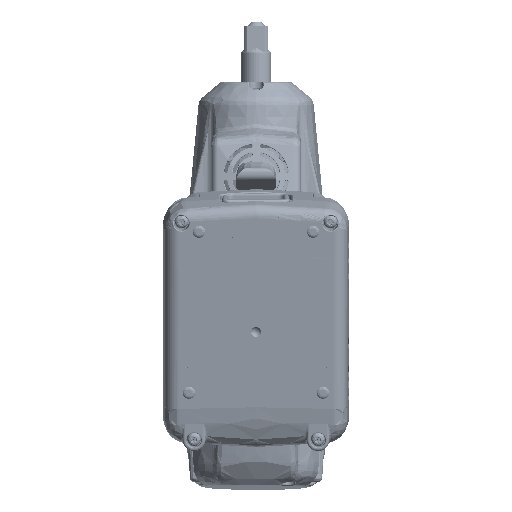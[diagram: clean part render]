
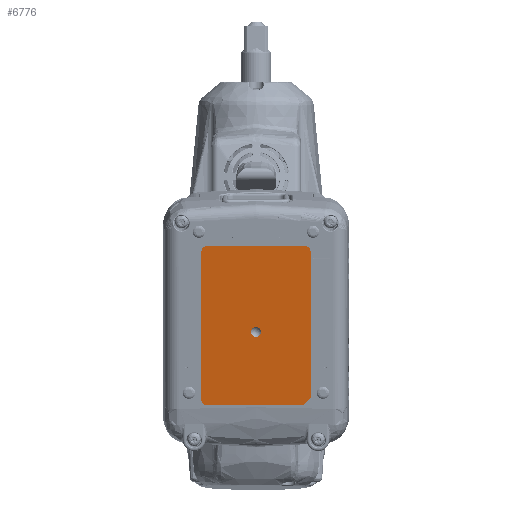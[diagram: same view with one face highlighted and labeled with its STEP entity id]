
A CAD part, front view. The second image highlights one B-rep face of the part: STEP entity #6776.
In plain terms, the highlighted planar face has unit normal (0, -0.985, -0.174) as drawn and (0, 0, -1) by its records, which use the part's own axes.
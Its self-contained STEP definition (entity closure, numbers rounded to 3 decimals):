
#1949 = LINE ( 'NONE', #177792, #349503 ) ;
#6776 = ADVANCED_FACE ( 'NONE', ( #311304, #411543 ), #16496, .T. ) ;
#13667 = ORIENTED_EDGE ( 'NONE', *, *, #18478, .T. ) ;
#16412 = AXIS2_PLACEMENT_3D ( 'NONE', #289999, #323971, #143046 ) ;
#16496 = PLANE ( 'NONE',  #16412 ) ;
#16927 = DIRECTION ( 'NONE',  ( 0., 0., -1. ) ) ;
#18478 = EDGE_CURVE ( 'NONE', #400707, #19149, #143540, .T. ) ;
#18681 = DIRECTION ( 'NONE',  ( -1., 0., 0. ) ) ;
#19149 = VERTEX_POINT ( 'NONE', #359118 ) ;
#25332 = CARTESIAN_POINT ( 'NONE',  ( 19.665, -67.22, -14.1 ) ) ;
#27211 = CIRCLE ( 'NONE', #139844, 2. ) ;
#27775 = VECTOR ( 'NONE', #369295, 1000. ) ;
#41814 = EDGE_CURVE ( 'NONE', #174926, #162309, #417623, .T. ) ;
#42517 = CARTESIAN_POINT ( 'NONE',  ( 4.665, -4.22, -14.1 ) ) ;
#43686 = CARTESIAN_POINT ( 'NONE',  ( 18.665, -4.22, -14.1 ) ) ;
#46924 = CIRCLE ( 'NONE', #75134, 2. ) ;
#58130 = VERTEX_POINT ( 'NONE', #251956 ) ;
#74441 = VECTOR ( 'NONE', #196504, 1000. ) ;
#75134 = AXIS2_PLACEMENT_3D ( 'NONE', #393713, #325963, #359880 ) ;
#77725 = DIRECTION ( 'NONE',  ( 0., -1., 0. ) ) ;
#81938 = EDGE_CURVE ( 'NONE', #415935, #105528, #140913, .T. ) ;
#85822 = EDGE_CURVE ( 'NONE', #105528, #400707, #212573, .T. ) ;
#89278 = CARTESIAN_POINT ( 'NONE',  ( -0.335, -34.12, -14.1 ) ) ;
#102603 = EDGE_CURVE ( 'NONE', #186102, #234474, #27211, .T. ) ;
#105528 = VERTEX_POINT ( 'NONE', #152702 ) ;
#116356 = EDGE_CURVE ( 'NONE', #162309, #174926, #404355, .T. ) ;
#123116 = EDGE_CURVE ( 'NONE', #19149, #186102, #1949, .T. ) ;
#123146 = VECTOR ( 'NONE', #381011, 1000. ) ;
#127495 = CARTESIAN_POINT ( 'NONE',  ( -22.335, -4.22, -14.1 ) ) ;
#139844 = AXIS2_PLACEMENT_3D ( 'NONE', #25332, #324074, #259155 ) ;
#140913 = CIRCLE ( 'NONE', #400001, 2. ) ;
#142945 = LINE ( 'NONE', #127495, #74441 ) ;
#143046 = DIRECTION ( 'NONE',  ( -1., 0., 0. ) ) ;
#143528 = ORIENTED_EDGE ( 'NONE', *, *, #116356, .T. ) ;
#143540 = LINE ( 'NONE', #167020, #338129 ) ;
#151311 = CARTESIAN_POINT ( 'NONE',  ( 1.665, -34.12, -14.1 ) ) ;
#152702 = CARTESIAN_POINT ( 'NONE',  ( -20.335, -4.22, -14.1 ) ) ;
#154646 = EDGE_LOOP ( 'NONE', ( #180034, #160179, #207659, #410442, #158974, #13667, #205016, #276590 ) ) ;
#157892 = CARTESIAN_POINT ( 'NONE',  ( 21.665, -67.22, -14.1 ) ) ;
#158974 = ORIENTED_EDGE ( 'NONE', *, *, #85822, .T. ) ;
#160179 = ORIENTED_EDGE ( 'NONE', *, *, #259780, .T. ) ;
#162309 = VERTEX_POINT ( 'NONE', #222397 ) ;
#167020 = CARTESIAN_POINT ( 'NONE',  ( 18.665, -4.22, -14.1 ) ) ;
#174926 = VERTEX_POINT ( 'NONE', #151311 ) ;
#177678 = EDGE_LOOP ( 'NONE', ( #143528, #374752 ) ) ;
#177792 = CARTESIAN_POINT ( 'NONE',  ( 21.665, -4.22, -14.1 ) ) ;
#180034 = ORIENTED_EDGE ( 'NONE', *, *, #420131, .T. ) ;
#186102 = VERTEX_POINT ( 'NONE', #157892 ) ;
#186846 = CARTESIAN_POINT ( 'NONE',  ( -20.335, -69.22, -14.1 ) ) ;
#189347 = VERTEX_POINT ( 'NONE', #186846 ) ;
#196504 = DIRECTION ( 'NONE',  ( 0., 1., 0. ) ) ;
#205016 = ORIENTED_EDGE ( 'NONE', *, *, #123116, .T. ) ;
#207659 = ORIENTED_EDGE ( 'NONE', *, *, #363863, .T. ) ;
#212573 = LINE ( 'NONE', #42517, #123146 ) ;
#214359 = CARTESIAN_POINT ( 'NONE',  ( -0.335, -34.12, -14.1 ) ) ;
#222397 = CARTESIAN_POINT ( 'NONE',  ( -2.335, -34.12, -14.1 ) ) ;
#223355 = CARTESIAN_POINT ( 'NONE',  ( 19.665, -69.22, -14.1 ) ) ;
#234474 = VERTEX_POINT ( 'NONE', #223355 ) ;
#237486 = CARTESIAN_POINT ( 'NONE',  ( -22.335, -6.22, -14.1 ) ) ;
#248166 = DIRECTION ( 'NONE',  ( 0., 0., 1. ) ) ;
#248489 = LINE ( 'NONE', #301489, #27775 ) ;
#249375 = DIRECTION ( 'NONE',  ( -1., 0., 0. ) ) ;
#251956 = CARTESIAN_POINT ( 'NONE',  ( -22.335, -67.22, -14.1 ) ) ;
#252571 = DIRECTION ( 'NONE',  ( 0., 0., 1. ) ) ;
#259155 = DIRECTION ( 'NONE',  ( -1., 0., 0. ) ) ;
#259780 = EDGE_CURVE ( 'NONE', #189347, #58130, #46924, .T. ) ;
#276590 = ORIENTED_EDGE ( 'NONE', *, *, #102603, .T. ) ;
#281983 = DIRECTION ( 'NONE',  ( -1., 0., 0. ) ) ;
#289999 = CARTESIAN_POINT ( 'NONE',  ( 4.665, -4.22, -14.1 ) ) ;
#301489 = CARTESIAN_POINT ( 'NONE',  ( 4.665, -69.22, -14.1 ) ) ;
#305893 = AXIS2_PLACEMENT_3D ( 'NONE', #214359, #248166, #281983 ) ;
#311304 = FACE_OUTER_BOUND ( 'NONE', #154646, .T. ) ;
#323971 = DIRECTION ( 'NONE',  ( 0., 0., -1. ) ) ;
#324074 = DIRECTION ( 'NONE',  ( 0., 0., -1. ) ) ;
#325963 = DIRECTION ( 'NONE',  ( 0., 0., -1. ) ) ;
#329607 = AXIS2_PLACEMENT_3D ( 'NONE', #89278, #252571, #18681 ) ;
#338129 = VECTOR ( 'NONE', #402545, 1000. ) ;
#349503 = VECTOR ( 'NONE', #77725, 1000. ) ;
#359118 = CARTESIAN_POINT ( 'NONE',  ( 21.665, -7.22, -14.1 ) ) ;
#359880 = DIRECTION ( 'NONE',  ( -1., 0., 0. ) ) ;
#363863 = EDGE_CURVE ( 'NONE', #58130, #415935, #142945, .T. ) ;
#369295 = DIRECTION ( 'NONE',  ( -1., 0., 0. ) ) ;
#374752 = ORIENTED_EDGE ( 'NONE', *, *, #41814, .T. ) ;
#381011 = DIRECTION ( 'NONE',  ( 1., 0., 0. ) ) ;
#393713 = CARTESIAN_POINT ( 'NONE',  ( -20.335, -67.22, -14.1 ) ) ;
#400001 = AXIS2_PLACEMENT_3D ( 'NONE', #415923, #16927, #249375 ) ;
#400707 = VERTEX_POINT ( 'NONE', #43686 ) ;
#402545 = DIRECTION ( 'NONE',  ( 0.707, -0.707, 0. ) ) ;
#404355 = CIRCLE ( 'NONE', #305893, 2. ) ;
#410442 = ORIENTED_EDGE ( 'NONE', *, *, #81938, .T. ) ;
#411543 = FACE_BOUND ( 'NONE', #177678, .T. ) ;
#415923 = CARTESIAN_POINT ( 'NONE',  ( -20.335, -6.22, -14.1 ) ) ;
#415935 = VERTEX_POINT ( 'NONE', #237486 ) ;
#417623 = CIRCLE ( 'NONE', #329607, 2. ) ;
#420131 = EDGE_CURVE ( 'NONE', #234474, #189347, #248489, .T. ) ;
